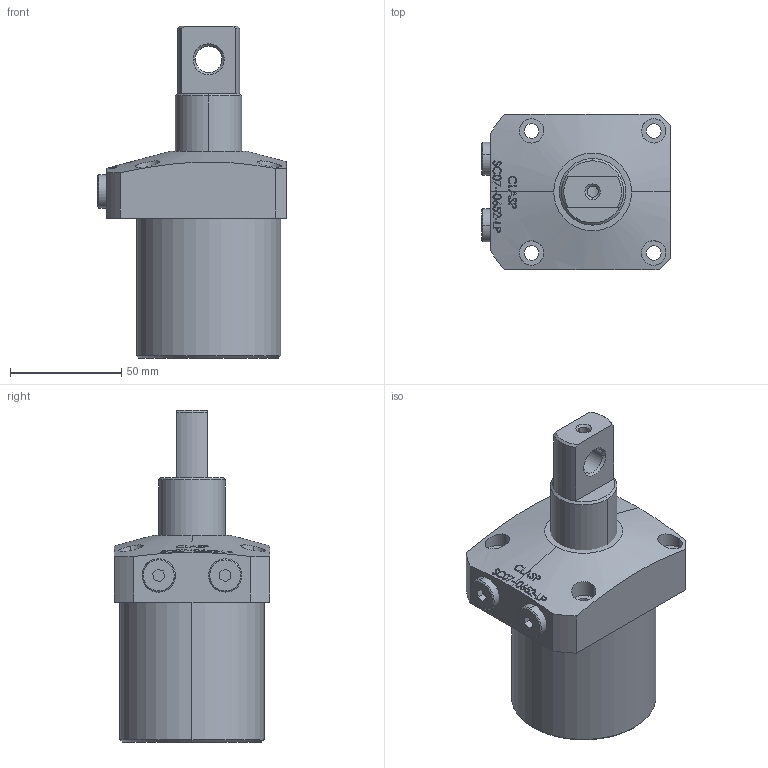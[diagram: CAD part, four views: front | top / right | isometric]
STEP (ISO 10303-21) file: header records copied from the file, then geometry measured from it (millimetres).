
FILE_DESCRIPTION (( 'STEP AP203' ), '1' );
FILE_NAME ('SC07-0652-LP.STEP', '2022-07-08T16:56:02', ( '' ), ( '' ), 'SwSTEP 2.0', 'SolidWorks 2017', '' );
FILE_SCHEMA (( 'CONFIG_CONTROL_DESIGN' ));
Length unit declared in the file: millimetre
Products named in the file (4): SC-07-0652-LP  BODY; SC-07-0652-LP-Piston; SC-07-0652-LP-05 plug; SC07-0652-LP
Assembly tree (4 placements, depth 2):
  SC07-0652-LP
    SC-07-0652-LP  BODY
    SC-07-0652-LP-Piston
    SC-07-0652-LP-05 plug  x2
Bounding box: 85 x 70 x 149.5 mm (x, y, z)
Volume: 394660.3 mm3; surface area: 44999.6 mm2
Topology: 4 solids, 4 shells, 322 faces, 806 edges, 530 vertices
Faces by surface type: plane 143, bspline 101, cylinder 50, cone 28
Entity records: 15427 total; most frequent: CARTESIAN_POINT 8380, ORIENTED_EDGE 1548, DIRECTION 1001, EDGE_CURVE 774, VERTEX_POINT 510, LINE 359, VECTOR 359, EDGE_LOOP 356
